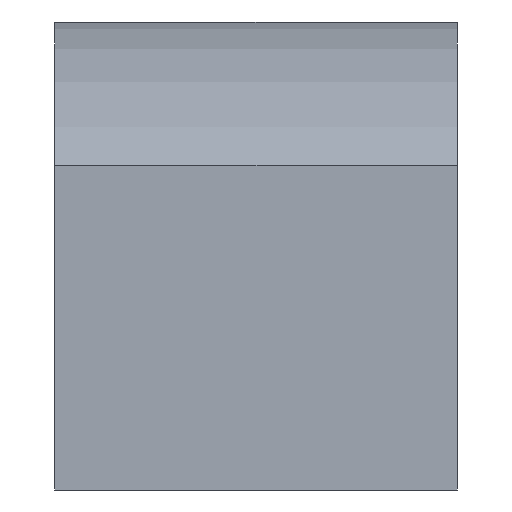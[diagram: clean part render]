
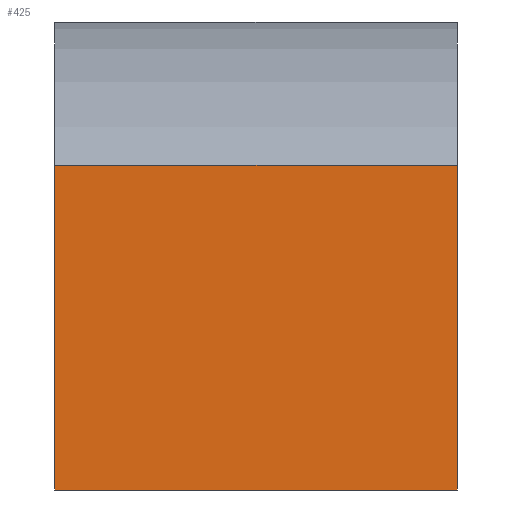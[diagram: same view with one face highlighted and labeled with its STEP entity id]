
A CAD part, left-side view. The second image highlights one B-rep face of the part: STEP entity #425.
In plain terms, the highlighted planar face has unit normal (-1, 0, 0).
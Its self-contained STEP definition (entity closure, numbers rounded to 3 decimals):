
#22 = VERTEX_POINT('',#23);
#23 = CARTESIAN_POINT('',(19.3,-19.8,43.3));
#32 = PLANE('',#33);
#33 = AXIS2_PLACEMENT_3D('',#34,#35,#36);
#34 = CARTESIAN_POINT('',(11.,-37.9,43.3));
#35 = DIRECTION('',(0.,0.,1.));
#36 = DIRECTION('',(1.,0.,0.));
#44 = PLANE('',#45);
#45 = AXIS2_PLACEMENT_3D('',#46,#47,#48);
#46 = CARTESIAN_POINT('',(31.,-19.8,43.));
#47 = DIRECTION('',(0.,1.,0.));
#48 = DIRECTION('',(0.,-0.,1.));
#56 = EDGE_CURVE('',#57,#22,#59,.T.);
#57 = VERTEX_POINT('',#58);
#58 = CARTESIAN_POINT('',(19.3,-26.,43.3));
#59 = SURFACE_CURVE('',#60,(#64,#71),.PCURVE_S1.);
#60 = LINE('',#61,#62);
#61 = CARTESIAN_POINT('',(19.3,-26.,43.3));
#62 = VECTOR('',#63,1.);
#63 = DIRECTION('',(0.,1.,0.));
#64 = PCURVE('',#32,#65);
#65 = DEFINITIONAL_REPRESENTATION('',(#66),#70);
#66 = LINE('',#67,#68);
#67 = CARTESIAN_POINT('',(8.3,11.9));
#68 = VECTOR('',#69,1.);
#69 = DIRECTION('',(0.,1.));
#70 = ( GEOMETRIC_REPRESENTATION_CONTEXT(2) 
PARAMETRIC_REPRESENTATION_CONTEXT() REPRESENTATION_CONTEXT('2D SPACE',''
  ) );
#71 = PCURVE('',#72,#77);
#72 = PLANE('',#73);
#73 = AXIS2_PLACEMENT_3D('',#74,#75,#76);
#74 = CARTESIAN_POINT('',(19.3,-26.,43.3));
#75 = DIRECTION('',(1.,0.,0.));
#76 = DIRECTION('',(0.,0.,1.));
#77 = DEFINITIONAL_REPRESENTATION('',(#78),#82);
#78 = LINE('',#79,#80);
#79 = CARTESIAN_POINT('',(0.,0.));
#80 = VECTOR('',#81,1.);
#81 = DIRECTION('',(0.,-1.));
#82 = ( GEOMETRIC_REPRESENTATION_CONTEXT(2) 
PARAMETRIC_REPRESENTATION_CONTEXT() REPRESENTATION_CONTEXT('2D SPACE',''
  ) );
#100 = PLANE('',#101);
#101 = AXIS2_PLACEMENT_3D('',#102,#103,#104);
#102 = CARTESIAN_POINT('',(31.,-26.,43.));
#103 = DIRECTION('',(0.,1.,0.));
#104 = DIRECTION('',(0.,-0.,1.));
#176 = EDGE_CURVE('',#22,#177,#179,.T.);
#177 = VERTEX_POINT('',#178);
#178 = CARTESIAN_POINT('',(19.3,-19.8,48.3));
#179 = SURFACE_CURVE('',#180,(#184,#191),.PCURVE_S1.);
#180 = LINE('',#181,#182);
#181 = CARTESIAN_POINT('',(19.3,-19.8,43.3));
#182 = VECTOR('',#183,1.);
#183 = DIRECTION('',(0.,0.,1.));
#184 = PCURVE('',#44,#185);
#185 = DEFINITIONAL_REPRESENTATION('',(#186),#190);
#186 = LINE('',#187,#188);
#187 = CARTESIAN_POINT('',(0.3,-11.7));
#188 = VECTOR('',#189,1.);
#189 = DIRECTION('',(1.,0.));
#190 = ( GEOMETRIC_REPRESENTATION_CONTEXT(2) 
PARAMETRIC_REPRESENTATION_CONTEXT() REPRESENTATION_CONTEXT('2D SPACE',''
  ) );
#191 = PCURVE('',#72,#192);
#192 = DEFINITIONAL_REPRESENTATION('',(#193),#197);
#193 = LINE('',#194,#195);
#194 = CARTESIAN_POINT('',(0.,-6.2));
#195 = VECTOR('',#196,1.);
#196 = DIRECTION('',(1.,0.));
#197 = ( GEOMETRIC_REPRESENTATION_CONTEXT(2) 
PARAMETRIC_REPRESENTATION_CONTEXT() REPRESENTATION_CONTEXT('2D SPACE',''
  ) );
#215 = PLANE('',#216);
#216 = AXIS2_PLACEMENT_3D('',#217,#218,#219);
#217 = CARTESIAN_POINT('',(19.3,-26.,48.3));
#218 = DIRECTION('',(0.,0.,1.));
#219 = DIRECTION('',(1.,0.,0.));
#425 = ADVANCED_FACE('',(#426),#72,.F.);
#426 = FACE_BOUND('',#427,.F.);
#427 = EDGE_LOOP('',(#428,#451,#452,#453));
#428 = ORIENTED_EDGE('',*,*,#429,.F.);
#429 = EDGE_CURVE('',#57,#430,#432,.T.);
#430 = VERTEX_POINT('',#431);
#431 = CARTESIAN_POINT('',(19.3,-26.,48.3));
#432 = SURFACE_CURVE('',#433,(#437,#444),.PCURVE_S1.);
#433 = LINE('',#434,#435);
#434 = CARTESIAN_POINT('',(19.3,-26.,43.3));
#435 = VECTOR('',#436,1.);
#436 = DIRECTION('',(0.,0.,1.));
#437 = PCURVE('',#72,#438);
#438 = DEFINITIONAL_REPRESENTATION('',(#439),#443);
#439 = LINE('',#440,#441);
#440 = CARTESIAN_POINT('',(0.,0.));
#441 = VECTOR('',#442,1.);
#442 = DIRECTION('',(1.,0.));
#443 = ( GEOMETRIC_REPRESENTATION_CONTEXT(2) 
PARAMETRIC_REPRESENTATION_CONTEXT() REPRESENTATION_CONTEXT('2D SPACE',''
  ) );
#444 = PCURVE('',#100,#445);
#445 = DEFINITIONAL_REPRESENTATION('',(#446),#450);
#446 = LINE('',#447,#448);
#447 = CARTESIAN_POINT('',(0.3,-11.7));
#448 = VECTOR('',#449,1.);
#449 = DIRECTION('',(1.,0.));
#450 = ( GEOMETRIC_REPRESENTATION_CONTEXT(2) 
PARAMETRIC_REPRESENTATION_CONTEXT() REPRESENTATION_CONTEXT('2D SPACE',''
  ) );
#451 = ORIENTED_EDGE('',*,*,#56,.T.);
#452 = ORIENTED_EDGE('',*,*,#176,.T.);
#453 = ORIENTED_EDGE('',*,*,#454,.F.);
#454 = EDGE_CURVE('',#430,#177,#455,.T.);
#455 = SURFACE_CURVE('',#456,(#460,#467),.PCURVE_S1.);
#456 = LINE('',#457,#458);
#457 = CARTESIAN_POINT('',(19.3,-26.,48.3));
#458 = VECTOR('',#459,1.);
#459 = DIRECTION('',(0.,1.,0.));
#460 = PCURVE('',#72,#461);
#461 = DEFINITIONAL_REPRESENTATION('',(#462),#466);
#462 = LINE('',#463,#464);
#463 = CARTESIAN_POINT('',(5.,0.));
#464 = VECTOR('',#465,1.);
#465 = DIRECTION('',(0.,-1.));
#466 = ( GEOMETRIC_REPRESENTATION_CONTEXT(2) 
PARAMETRIC_REPRESENTATION_CONTEXT() REPRESENTATION_CONTEXT('2D SPACE',''
  ) );
#467 = PCURVE('',#215,#468);
#468 = DEFINITIONAL_REPRESENTATION('',(#469),#473);
#469 = LINE('',#470,#471);
#470 = CARTESIAN_POINT('',(0.,0.));
#471 = VECTOR('',#472,1.);
#472 = DIRECTION('',(0.,1.));
#473 = ( GEOMETRIC_REPRESENTATION_CONTEXT(2) 
PARAMETRIC_REPRESENTATION_CONTEXT() REPRESENTATION_CONTEXT('2D SPACE',''
  ) );
